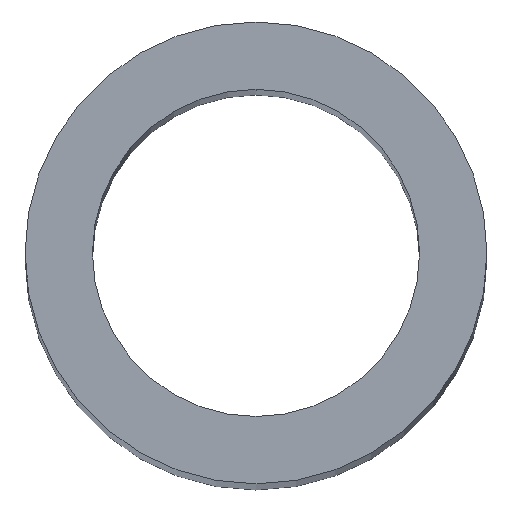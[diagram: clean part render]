
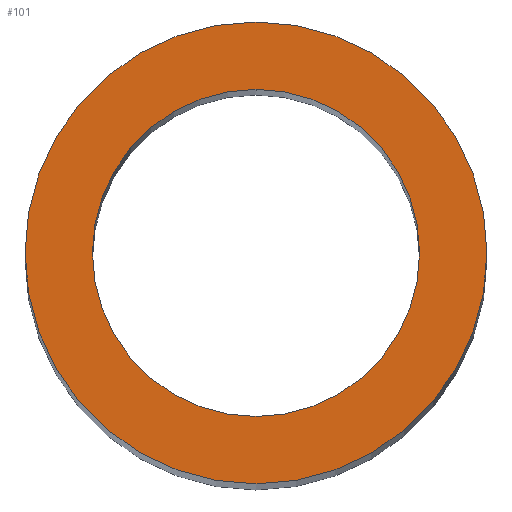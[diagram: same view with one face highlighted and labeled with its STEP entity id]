
A CAD part, top view. The second image highlights one B-rep face of the part: STEP entity #101.
In plain terms, the highlighted planar face has unit normal (0, 0, 1).
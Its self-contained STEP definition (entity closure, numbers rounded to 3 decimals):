
#51 = VERTEX_POINT ( 'NONE', #218 ) ;
#62 = EDGE_CURVE ( 'NONE', #88, #63, #273, .T. ) ;
#63 = VERTEX_POINT ( 'NONE', #268 ) ;
#68 = EDGE_CURVE ( 'NONE', #51, #89, #251, .T. ) ;
#81 = EDGE_LOOP ( 'NONE', ( #85, #86 ) ) ;
#83 = ORIENTED_EDGE ( 'NONE', *, *, #113, .T. ) ;
#84 = ORIENTED_EDGE ( 'NONE', *, *, #62, .T. ) ;
#85 = ORIENTED_EDGE ( 'NONE', *, *, #68, .T. ) ;
#86 = ORIENTED_EDGE ( 'NONE', *, *, #94, .T. ) ;
#88 = VERTEX_POINT ( 'NONE', #262 ) ;
#89 = VERTEX_POINT ( 'NONE', #261 ) ;
#94 = EDGE_CURVE ( 'NONE', #89, #51, #417, .T. ) ;
#101 = ADVANCED_FACE ( 'NONE', ( #416, #414 ), #407, .F. ) ;
#103 = EDGE_LOOP ( 'NONE', ( #83, #84 ) ) ;
#113 = EDGE_CURVE ( 'NONE', #63, #88, #292, .T. ) ;
#218 = CARTESIAN_POINT ( 'NONE',  ( 13.15, 0., 0. ) ) ;
#247 = DIRECTION ( 'NONE',  ( 1., 0., 0. ) ) ;
#248 = DIRECTION ( 'NONE',  ( 0., 0., 1. ) ) ;
#249 = CARTESIAN_POINT ( 'NONE',  ( 0., 0., 0. ) ) ;
#250 = AXIS2_PLACEMENT_3D ( 'NONE', #249, #248, #247 ) ;
#251 = CIRCLE ( 'NONE', #250, 13.15 ) ;
#261 = CARTESIAN_POINT ( 'NONE',  ( -13.15, 0., 0. ) ) ;
#262 = CARTESIAN_POINT ( 'NONE',  ( 0., -9.315, 0. ) ) ;
#268 = CARTESIAN_POINT ( 'NONE',  ( 0., 9.315, 0. ) ) ;
#269 = DIRECTION ( 'NONE',  ( 0., 1., 0. ) ) ;
#270 = DIRECTION ( 'NONE',  ( 0., 0., -1. ) ) ;
#271 = CARTESIAN_POINT ( 'NONE',  ( 0., 0., 0. ) ) ;
#272 = AXIS2_PLACEMENT_3D ( 'NONE', #271, #270, #269 ) ;
#273 = CIRCLE ( 'NONE', #272, 9.315 ) ;
#288 = DIRECTION ( 'NONE',  ( 0., 1., 0. ) ) ;
#289 = DIRECTION ( 'NONE',  ( 0., 0., -1. ) ) ;
#290 = CARTESIAN_POINT ( 'NONE',  ( 0., 0., 0. ) ) ;
#291 = AXIS2_PLACEMENT_3D ( 'NONE', #290, #289, #288 ) ;
#292 = CIRCLE ( 'NONE', #291, 9.315 ) ;
#403 = CARTESIAN_POINT ( 'NONE',  ( 0., 13.15, 0. ) ) ;
#404 = DIRECTION ( 'NONE',  ( 0., 0., -1. ) ) ;
#405 = DIRECTION ( 'NONE',  ( -1., 0., 0. ) ) ;
#406 = AXIS2_PLACEMENT_3D ( 'NONE', #403, #404, #405 ) ;
#407 = PLANE ( 'NONE',  #406 ) ;
#408 = DIRECTION ( 'NONE',  ( 0., 0., 1. ) ) ;
#410 = AXIS2_PLACEMENT_3D ( 'NONE', #419, #408, #418 ) ;
#414 = FACE_OUTER_BOUND ( 'NONE', #81, .T. ) ;
#416 = FACE_BOUND ( 'NONE', #103, .T. ) ;
#417 = CIRCLE ( 'NONE', #410, 13.15 ) ;
#418 = DIRECTION ( 'NONE',  ( 1., 0., 0. ) ) ;
#419 = CARTESIAN_POINT ( 'NONE',  ( 0., 0., 0. ) ) ;
